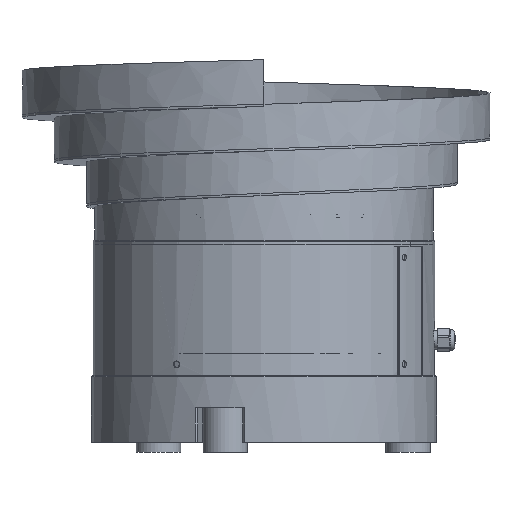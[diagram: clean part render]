
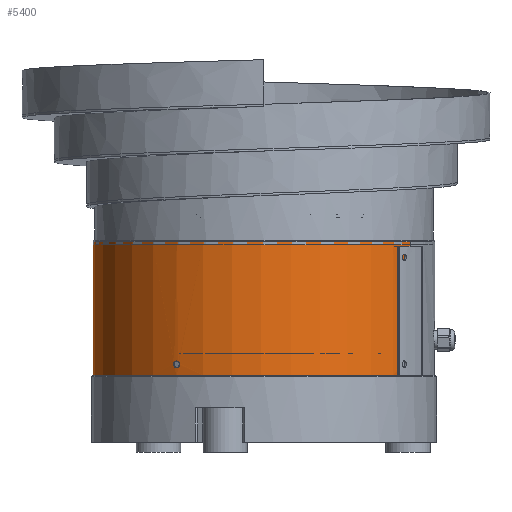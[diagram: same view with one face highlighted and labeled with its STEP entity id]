
A CAD part, front view. The second image highlights one B-rep face of the part: STEP entity #5400.
In plain terms, the highlighted cylindrical face has radius 153.5 mm (diameter 307 mm), a partial arc.
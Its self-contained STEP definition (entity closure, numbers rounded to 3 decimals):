
#108=B_SPLINE_CURVE_WITH_KNOTS('',3,(#11120,#11121,#11122,#11123,#11124,
#11125,#11126,#11127,#11128,#11129,#11130,#11131,#11132,#11133,#11134,#11135,
#11136,#11137,#11138,#11139,#11140,#11141,#11142,#11143,#11144,#11145,#11146,
#11147,#11148,#11149,#11150,#11151,#11152,#11153,#11154,#11155),
 .UNSPECIFIED.,.T.,.F.,(4,2,2,2,2,2,2,2,2,2,2,2,2,2,2,2,2,4),(0.,0.102,
0.195,0.29,0.387,0.485,0.585,
0.684,0.782,0.878,0.971,
1.065,1.162,1.26,1.36,1.459,
1.519,1.581),.UNSPECIFIED.);
#110=B_SPLINE_CURVE_WITH_KNOTS('',3,(#11434,#11435,#11436,#11437,#11438,
#11439,#11440,#11441,#11442,#11443,#11444,#11445,#11446,#11447,#11448,#11449,
#11450,#11451,#11452,#11453),.UNSPECIFIED.,.F.,.F.,(4,2,2,2,2,2,2,2,2,4),
(0.,0.117,0.237,0.356,0.474,
0.588,0.7,0.813,0.879,
0.944),.UNSPECIFIED.);
#327=FACE_BOUND('',#1332,.T.);
#587=CIRCLE('',#6107,153.5);
#589=CIRCLE('',#6112,153.5);
#593=CIRCLE('',#6118,153.5);
#594=CIRCLE('',#6119,153.5);
#778=CYLINDRICAL_SURFACE('',#6117,153.5);
#980=FACE_OUTER_BOUND('',#1331,.T.);
#1331=EDGE_LOOP('',(#4488,#4489,#4490,#4491,#4492,#4493,#4494,#4495));
#1332=EDGE_LOOP('',(#4496));
#1675=LINE('',#11205,#2032);
#1678=LINE('',#11212,#2035);
#1684=LINE('',#11484,#2041);
#2032=VECTOR('',#7390,10.);
#2035=VECTOR('',#7395,10.);
#2041=VECTOR('',#7417,10.);
#2537=VERTEX_POINT('',#11119);
#2539=VERTEX_POINT('',#11195);
#2540=VERTEX_POINT('',#11196);
#2543=VERTEX_POINT('',#11204);
#2545=VERTEX_POINT('',#11210);
#2546=VERTEX_POINT('',#11211);
#2549=VERTEX_POINT('',#11219);
#2553=VERTEX_POINT('',#11481);
#2554=VERTEX_POINT('',#11483);
#3216=EDGE_CURVE('',#2537,#2537,#108,.T.);
#3219=EDGE_CURVE('',#2539,#2540,#587,.T.);
#3223=EDGE_CURVE('',#2540,#2543,#1675,.T.);
#3226=EDGE_CURVE('',#2545,#2546,#1678,.T.);
#3230=EDGE_CURVE('',#2546,#2549,#589,.T.);
#3233=EDGE_CURVE('',#2549,#2539,#110,.T.);
#3238=EDGE_CURVE('',#2543,#2553,#593,.T.);
#3239=EDGE_CURVE('',#2554,#2553,#1684,.T.);
#3240=EDGE_CURVE('',#2554,#2545,#594,.T.);
#4488=ORIENTED_EDGE('',*,*,#3238,.T.);
#4489=ORIENTED_EDGE('',*,*,#3239,.F.);
#4490=ORIENTED_EDGE('',*,*,#3240,.T.);
#4491=ORIENTED_EDGE('',*,*,#3226,.T.);
#4492=ORIENTED_EDGE('',*,*,#3230,.T.);
#4493=ORIENTED_EDGE('',*,*,#3233,.T.);
#4494=ORIENTED_EDGE('',*,*,#3219,.T.);
#4495=ORIENTED_EDGE('',*,*,#3223,.T.);
#4496=ORIENTED_EDGE('',*,*,#3216,.T.);
#5400=ADVANCED_FACE('',(#980,#327),#778,.T.);
#6107=AXIS2_PLACEMENT_3D('',#11197,#7382,#7383);
#6112=AXIS2_PLACEMENT_3D('',#11220,#7401,#7402);
#6117=AXIS2_PLACEMENT_3D('',#11480,#7413,#7414);
#6118=AXIS2_PLACEMENT_3D('',#11482,#7415,#7416);
#6119=AXIS2_PLACEMENT_3D('',#11485,#7418,#7419);
#7382=DIRECTION('center_axis',(0.,1.,0.));
#7383=DIRECTION('ref_axis',(0.,0.,-1.));
#7390=DIRECTION('',(0.,1.,0.));
#7395=DIRECTION('',(0.,1.,0.));
#7401=DIRECTION('center_axis',(0.,-1.,0.));
#7402=DIRECTION('ref_axis',(0.,0.,-1.));
#7413=DIRECTION('center_axis',(0.,1.,0.));
#7414=DIRECTION('ref_axis',(0.,0.,-1.));
#7415=DIRECTION('center_axis',(0.,-1.,0.));
#7416=DIRECTION('ref_axis',(0.,0.,-1.));
#7417=DIRECTION('',(0.,1.,0.));
#7418=DIRECTION('center_axis',(0.,1.,0.));
#7419=DIRECTION('ref_axis',(0.,0.,-1.));
#11119=CARTESIAN_POINT('',(-214.513,10.,148.501));
#11120=CARTESIAN_POINT('Ctrl Pts',(-214.513,10.,148.501));
#11121=CARTESIAN_POINT('Ctrl Pts',(-214.513,10.341,148.501));
#11122=CARTESIAN_POINT('Ctrl Pts',(-214.515,10.719,148.56));
#11123=CARTESIAN_POINT('Ctrl Pts',(-214.524,11.449,148.849));
#11124=CARTESIAN_POINT('Ctrl Pts',(-214.53,11.767,149.051));
#11125=CARTESIAN_POINT('Ctrl Pts',(-214.544,12.319,149.566));
#11126=CARTESIAN_POINT('Ctrl Pts',(-214.552,12.545,149.875));
#11127=CARTESIAN_POINT('Ctrl Pts',(-214.567,12.875,150.572));
#11128=CARTESIAN_POINT('Ctrl Pts',(-214.574,12.973,150.953));
#11129=CARTESIAN_POINT('Ctrl Pts',(-214.585,13.018,151.738));
#11130=CARTESIAN_POINT('Ctrl Pts',(-214.589,12.963,152.133));
#11131=CARTESIAN_POINT('Ctrl Pts',(-214.594,12.703,152.886));
#11132=CARTESIAN_POINT('Ctrl Pts',(-214.595,12.498,153.235));
#11133=CARTESIAN_POINT('Ctrl Pts',(-214.594,11.966,153.83));
#11134=CARTESIAN_POINT('Ctrl Pts',(-214.594,11.646,154.07));
#11135=CARTESIAN_POINT('Ctrl Pts',(-214.592,10.931,154.412));
#11136=CARTESIAN_POINT('Ctrl Pts',(-214.591,10.544,154.51));
#11137=CARTESIAN_POINT('Ctrl Pts',(-214.591,9.766,154.549));
#11138=CARTESIAN_POINT('Ctrl Pts',(-214.591,9.383,154.494));
#11139=CARTESIAN_POINT('Ctrl Pts',(-214.593,8.667,154.245));
#11140=CARTESIAN_POINT('Ctrl Pts',(-214.594,8.34,154.057));
#11141=CARTESIAN_POINT('Ctrl Pts',(-214.595,7.768,153.568));
#11142=CARTESIAN_POINT('Ctrl Pts',(-214.595,7.529,153.269));
#11143=CARTESIAN_POINT('Ctrl Pts',(-214.592,7.169,152.589));
#11144=CARTESIAN_POINT('Ctrl Pts',(-214.59,7.055,152.213));
#11145=CARTESIAN_POINT('Ctrl Pts',(-214.581,6.976,151.433));
#11146=CARTESIAN_POINT('Ctrl Pts',(-214.575,7.012,151.036));
#11147=CARTESIAN_POINT('Ctrl Pts',(-214.561,7.238,150.274));
#11148=CARTESIAN_POINT('Ctrl Pts',(-214.553,7.426,149.916));
#11149=CARTESIAN_POINT('Ctrl Pts',(-214.537,7.93,149.298));
#11150=CARTESIAN_POINT('Ctrl Pts',(-214.53,8.239,149.043));
#11151=CARTESIAN_POINT('Ctrl Pts',(-214.521,8.801,148.742));
#11152=CARTESIAN_POINT('Ctrl Pts',(-214.518,9.026,148.654));
#11153=CARTESIAN_POINT('Ctrl Pts',(-214.514,9.502,148.533));
#11154=CARTESIAN_POINT('Ctrl Pts',(-214.513,9.751,148.501));
#11155=CARTESIAN_POINT('Ctrl Pts',(-214.513,10.,148.501));
#11195=CARTESIAN_POINT('',(-76.283,13.,306.247));
#11196=CARTESIAN_POINT('',(-64.242,13.,306.968));
#11197=CARTESIAN_POINT('Origin',(-61.095,13.,153.5));
#11204=CARTESIAN_POINT('',(-64.242,120.,306.968));
#11205=CARTESIAN_POINT('',(-64.242,60.,306.968));
#11210=CARTESIAN_POINT('',(-64.242,0.,306.968));
#11211=CARTESIAN_POINT('',(-64.242,7.,306.968));
#11212=CARTESIAN_POINT('',(-64.242,60.,306.968));
#11219=CARTESIAN_POINT('',(-76.283,7.,306.247));
#11220=CARTESIAN_POINT('Origin',(-61.095,7.,153.5));
#11434=CARTESIAN_POINT('Ctrl Pts',(-76.283,7.,306.247));
#11435=CARTESIAN_POINT('Ctrl Pts',(-76.672,7.,306.208));
#11436=CARTESIAN_POINT('Ctrl Pts',(-77.059,7.076,306.168));
#11437=CARTESIAN_POINT('Ctrl Pts',(-77.791,7.376,306.09));
#11438=CARTESIAN_POINT('Ctrl Pts',(-78.127,7.6,306.052));
#11439=CARTESIAN_POINT('Ctrl Pts',(-78.688,8.165,305.989));
#11440=CARTESIAN_POINT('Ctrl Pts',(-78.909,8.498,305.963));
#11441=CARTESIAN_POINT('Ctrl Pts',(-79.208,9.23,305.928));
#11442=CARTESIAN_POINT('Ctrl Pts',(-79.284,9.622,305.919));
#11443=CARTESIAN_POINT('Ctrl Pts',(-79.279,10.399,305.919));
#11444=CARTESIAN_POINT('Ctrl Pts',(-79.204,10.777,305.928));
#11445=CARTESIAN_POINT('Ctrl Pts',(-78.92,11.476,305.962));
#11446=CARTESIAN_POINT('Ctrl Pts',(-78.716,11.793,305.985));
#11447=CARTESIAN_POINT('Ctrl Pts',(-78.199,12.339,306.044));
#11448=CARTESIAN_POINT('Ctrl Pts',(-77.888,12.562,306.079));
#11449=CARTESIAN_POINT('Ctrl Pts',(-77.347,12.814,306.137));
#11450=CARTESIAN_POINT('Ctrl Pts',(-77.14,12.883,306.159));
#11451=CARTESIAN_POINT('Ctrl Pts',(-76.715,12.977,306.203));
#11452=CARTESIAN_POINT('Ctrl Pts',(-76.499,13.,306.225));
#11453=CARTESIAN_POINT('Ctrl Pts',(-76.283,13.,306.247));
#11480=CARTESIAN_POINT('Origin',(-61.095,60.,153.5));
#11481=CARTESIAN_POINT('',(-61.095,120.,0.));
#11482=CARTESIAN_POINT('Origin',(-61.095,120.,153.5));
#11483=CARTESIAN_POINT('',(-61.095,0.,0.));
#11484=CARTESIAN_POINT('',(-61.095,30.,0.));
#11485=CARTESIAN_POINT('Origin',(-61.095,0.,
153.5));
